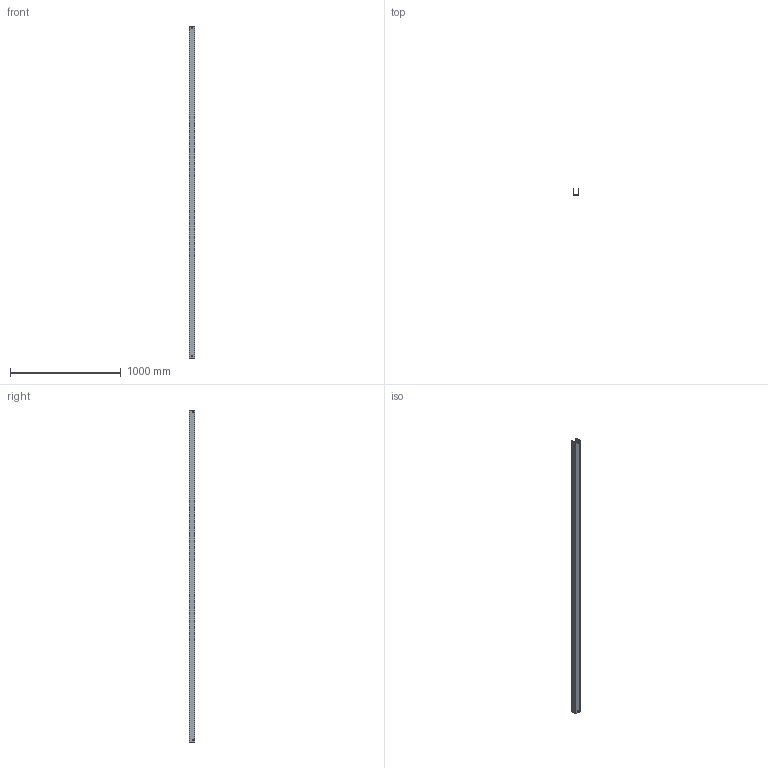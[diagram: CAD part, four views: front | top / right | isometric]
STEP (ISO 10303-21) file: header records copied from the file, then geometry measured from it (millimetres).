
FILE_DESCRIPTION (( 'STEP AP214' ), '1' );
FILE_NAME ('03B3B050.step', '2025-02-21T10:13:18', ( '' ), ( '' ), 'SwSTEP 2.0', 'SolidWorks 2023', '' );
FILE_SCHEMA (( 'AUTOMOTIVE_DESIGN' ));
Length unit declared in the file: millimetre
Products named in the file (1): 03B3B050
Bounding box: 54 x 52 x 3000 mm (x, y, z)
Volume: 1584110.5 mm3; surface area: 927956 mm2
Topology: 1 solids, 1 shells, 34 faces, 96 edges, 64 vertices
Faces by surface type: plane 34
Entity records: 1127 total; most frequent: CARTESIAN_POINT 195, ORIENTED_EDGE 192, DIRECTION 166, LINE 96, VECTOR 96, EDGE_CURVE 96, VERTEX_POINT 64, EDGE_LOOP 46
